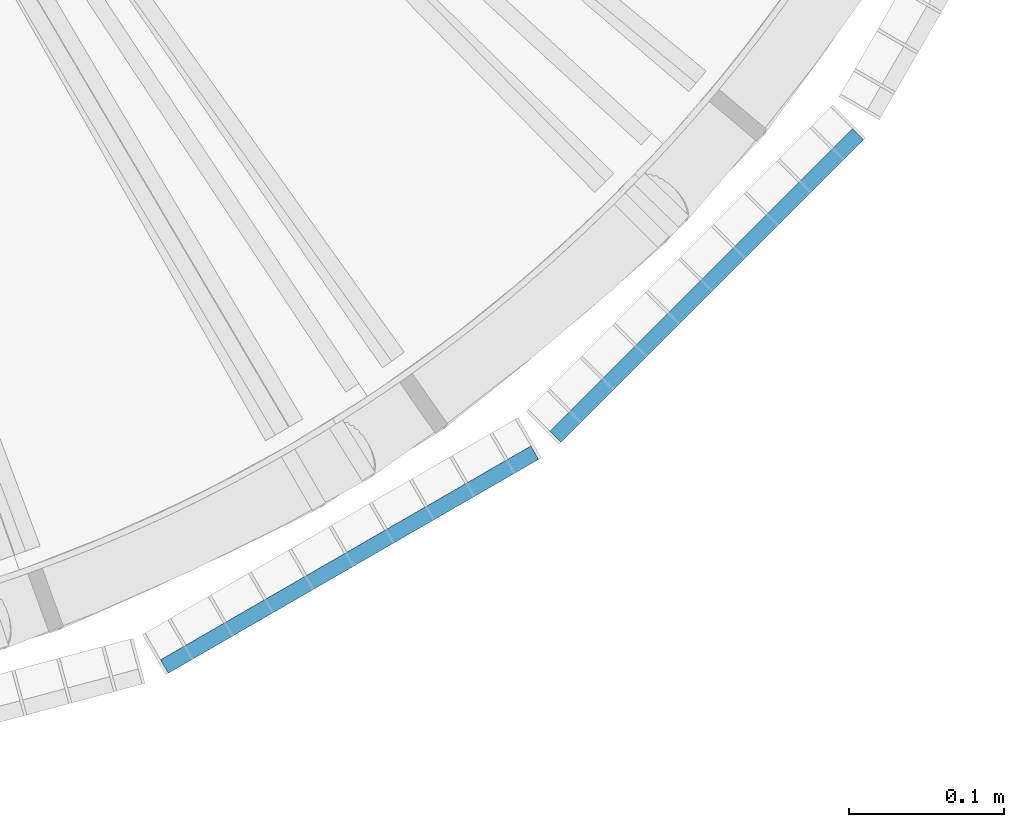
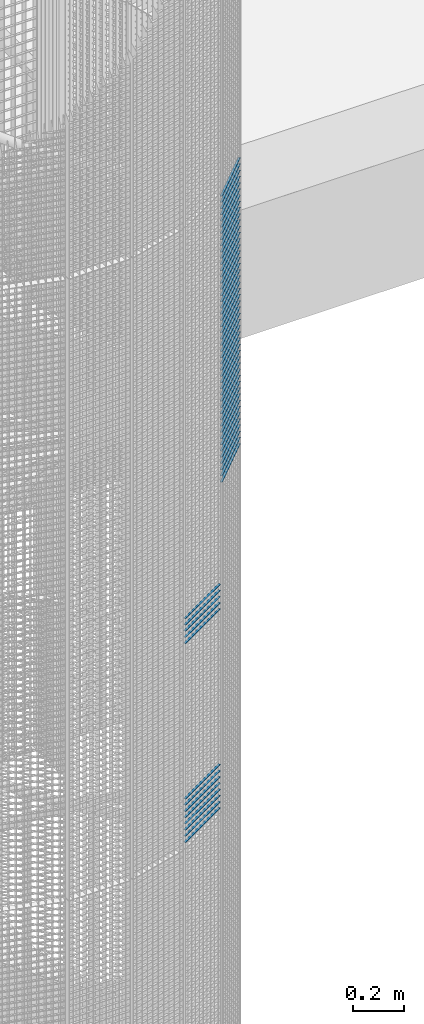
# One storey, part 399 of 1148: 60 beams, 2 elements without a shape of their own.
"""IFC2X3 building model written with IfcOpenShell, lengths in millimetres."""

from ifc_helpers import new_model, si_unit, frame, origin_with_axes, origin_2d_with_axis, place, context, subcontext, project, spatial, rectangle, extrude, material, type_object, element, aggregate, save


model = new_model("IFC2X3")

# Units and contexts
model_context = context("Model", 3, precision=1e-05, world=origin_with_axes())
body_context = subcontext(model_context, "Body", "Model", "MODEL_VIEW")
ifc_project = project(units=[si_unit("LENGTHUNIT", "METRE", prefix="MILLI"), si_unit("AREAUNIT", "SQUARE_METRE"), si_unit("VOLUMEUNIT", "CUBIC_METRE"), si_unit("MASSUNIT", "GRAM", prefix="KILO"), si_unit("TIMEUNIT", "SECOND"), si_unit("PLANEANGLEUNIT", "RADIAN"), si_unit("SOLIDANGLEUNIT", "STERADIAN"), si_unit("THERMODYNAMICTEMPERATUREUNIT", "DEGREE_CELSIUS"), si_unit("LUMINOUSINTENSITYUNIT", "LUMEN")], contexts=[model_context])

# Site, building, storey
site_placement = place(None, origin_with_axes())
site = spatial("IfcSite", under=ifc_project, at=site_placement, Name="Undefined", CompositionType="ELEMENT")
building_placement = place(site_placement, origin_with_axes())
building = spatial("IfcBuilding", under=site, at=building_placement, Name="Undefined", CompositionType="ELEMENT")
storey_placement = place(building_placement, origin_with_axes())
storey = spatial("IfcBuildingStorey", under=building, at=storey_placement, Name="Undefined", CompositionType="ELEMENT", Elevation=0.0)

# Assembly, beams
assembly_1_placement = place(storey_placement, origin_with_axes())
assembly_1 = element("IfcElementAssembly", 1, at=assembly_1_placement, inside=storey, Name="BORDURE", AssemblyPlace="NOTDEFINED", PredefinedType="NOTDEFINED")
ifc_material = material(Name="STEEL/S235JR")
beam_type = type_object("IfcBeamType", Name="PL2*10", PredefinedType="NOTDEFINED")
beam_1_placement = place(assembly_1_placement, frame((22276.2480445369, -895.303964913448, 6990.0), z_axis=(0.499999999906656, -0.866025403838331, 0.0), x_axis=(-0.866025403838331, -0.499999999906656, 0.0)))
beam_1 = element("IfcBeam", 2, at=beam_1_placement, type_object=beam_type, material=ifc_material, Name="ENTRETOISE", context=body_context, shape_type="SweptSolid", body=[
    extrude(rectangle(XDim=2.0, YDim=10.0, at=origin_2d_with_axis()), frame((275.999999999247, 9.09494701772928e-13, 1.53210777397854e-14), z_axis=(-1.0, 0.0, 0.0), x_axis=(0.0, -1.0, 0.0)), (0.0, 0.0, 1.0), 276.0),
])
beam_2_placement = place(assembly_1_placement, frame((22276.2480445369, -895.30396491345, 6240.0), z_axis=(0.499999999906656, -0.866025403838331, 0.0), x_axis=(-0.866025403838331, -0.499999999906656, 0.0)))
beam_2 = element("IfcBeam", 3, at=beam_2_placement, type_object=beam_type, material=ifc_material, Name="ENTRETOISE", context=body_context, shape_type="SweptSolid", body=[
    extrude(rectangle(XDim=2.0, YDim=10.0, at=origin_2d_with_axis()), frame((275.999999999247, 9.09494701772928e-13, 1.53210777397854e-14), z_axis=(-1.0, 0.0, 0.0), x_axis=(0.0, -1.0, 0.0)), (0.0, 0.0, 1.0), 276.0),
])
beam_3_placement = place(assembly_1_placement, frame((22276.2480445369, -895.303964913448, 7020.0), z_axis=(0.499999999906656, -0.866025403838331, 0.0), x_axis=(-0.866025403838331, -0.499999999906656, 0.0)))
beam_3 = element("IfcBeam", 4, at=beam_3_placement, type_object=beam_type, material=ifc_material, Name="ENTRETOISE", context=body_context, shape_type="SweptSolid", body=[
    extrude(rectangle(XDim=2.0, YDim=10.0, at=origin_2d_with_axis()), frame((275.999999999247, 9.09494701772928e-13, 1.53210777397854e-14), z_axis=(-1.0, 0.0, 0.0), x_axis=(0.0, -1.0, 0.0)), (0.0, 0.0, 1.0), 276.0),
])
beam_4_placement = place(assembly_1_placement, frame((22276.2480445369, -895.30396491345, 6210.0), z_axis=(0.499999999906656, -0.866025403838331, 0.0), x_axis=(-0.866025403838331, -0.499999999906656, 0.0)))
beam_4 = element("IfcBeam", 5, at=beam_4_placement, type_object=beam_type, material=ifc_material, Name="ENTRETOISE", context=body_context, shape_type="SweptSolid", body=[
    extrude(rectangle(XDim=2.0, YDim=10.0, at=origin_2d_with_axis()), frame((275.999999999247, 9.09494701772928e-13, 1.53210777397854e-14), z_axis=(-1.0, 0.0, 0.0), x_axis=(0.0, -1.0, 0.0)), (0.0, 0.0, 1.0), 276.0),
])
beam_5_placement = place(assembly_1_placement, frame((22276.2480445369, -895.30396491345, 6180.0), z_axis=(0.499999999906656, -0.866025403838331, 0.0), x_axis=(-0.866025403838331, -0.499999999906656, 0.0)))
beam_5 = element("IfcBeam", 6, at=beam_5_placement, type_object=beam_type, material=ifc_material, Name="ENTRETOISE", context=body_context, shape_type="SweptSolid", body=[
    extrude(rectangle(XDim=2.0, YDim=10.0, at=origin_2d_with_axis()), frame((275.999999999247, 9.09494701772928e-13, 1.53210777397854e-14), z_axis=(-1.0, 0.0, 0.0), x_axis=(0.0, -1.0, 0.0)), (0.0, 0.0, 1.0), 276.0),
])
beam_6_placement = place(assembly_1_placement, frame((22276.2480445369, -895.303964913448, 7050.0), z_axis=(0.499999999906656, -0.866025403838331, 0.0), x_axis=(-0.866025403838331, -0.499999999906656, 0.0)))
beam_6 = element("IfcBeam", 7, at=beam_6_placement, type_object=beam_type, material=ifc_material, Name="ENTRETOISE", context=body_context, shape_type="SweptSolid", body=[
    extrude(rectangle(XDim=2.0, YDim=10.0, at=origin_2d_with_axis()), frame((275.999999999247, 9.09494701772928e-13, 1.53210777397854e-14), z_axis=(-1.0, 0.0, 0.0), x_axis=(0.0, -1.0, 0.0)), (0.0, 0.0, 1.0), 276.0),
])
beam_7_placement = place(assembly_1_placement, frame((22276.2480445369, -895.30396491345, 6150.0), z_axis=(0.499999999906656, -0.866025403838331, 0.0), x_axis=(-0.866025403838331, -0.499999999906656, 0.0)))
beam_7 = element("IfcBeam", 8, at=beam_7_placement, type_object=beam_type, material=ifc_material, Name="ENTRETOISE", context=body_context, shape_type="SweptSolid", body=[
    extrude(rectangle(XDim=2.0, YDim=10.0, at=origin_2d_with_axis()), frame((275.999999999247, 9.09494701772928e-13, 1.53210777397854e-14), z_axis=(-1.0, 0.0, 0.0), x_axis=(0.0, -1.0, 0.0)), (0.0, 0.0, 1.0), 276.0),
])
beam_8_placement = place(assembly_1_placement, frame((22276.2480445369, -895.30396491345, 6120.0), z_axis=(0.499999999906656, -0.866025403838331, 0.0), x_axis=(-0.866025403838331, -0.499999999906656, 0.0)))
beam_8 = element("IfcBeam", 9, at=beam_8_placement, type_object=beam_type, material=ifc_material, Name="ENTRETOISE", context=body_context, shape_type="SweptSolid", body=[
    extrude(rectangle(XDim=2.0, YDim=10.0, at=origin_2d_with_axis()), frame((275.999999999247, 9.09494701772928e-13, 1.53210777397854e-14), z_axis=(-1.0, 0.0, 0.0), x_axis=(0.0, -1.0, 0.0)), (0.0, 0.0, 1.0), 276.0),
])
beam_9_placement = place(assembly_1_placement, frame((22276.2480445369, -895.303964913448, 7080.0), z_axis=(0.499999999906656, -0.866025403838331, 0.0), x_axis=(-0.866025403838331, -0.499999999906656, 0.0)))
beam_9 = element("IfcBeam", 10, at=beam_9_placement, type_object=beam_type, material=ifc_material, Name="ENTRETOISE", context=body_context, shape_type="SweptSolid", body=[
    extrude(rectangle(XDim=2.0, YDim=10.0, at=origin_2d_with_axis()), frame((275.999999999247, 9.09494701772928e-13, 1.53210777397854e-14), z_axis=(-1.0, 0.0, 0.0), x_axis=(0.0, -1.0, 0.0)), (0.0, 0.0, 1.0), 276.0),
])
beam_10_placement = place(assembly_1_placement, frame((22276.2480445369, -895.30396491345, 6090.0), z_axis=(0.499999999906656, -0.866025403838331, 0.0), x_axis=(-0.866025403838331, -0.499999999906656, 0.0)))
beam_10 = element("IfcBeam", 11, at=beam_10_placement, type_object=beam_type, material=ifc_material, Name="ENTRETOISE", context=body_context, shape_type="SweptSolid", body=[
    extrude(rectangle(XDim=2.0, YDim=10.0, at=origin_2d_with_axis()), frame((275.999999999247, 9.09494701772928e-13, 1.53210777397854e-14), z_axis=(-1.0, 0.0, 0.0), x_axis=(0.0, -1.0, 0.0)), (0.0, 0.0, 1.0), 276.0),
])
beam_11_placement = place(assembly_1_placement, frame((22276.2480445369, -895.30396491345, 6060.0), z_axis=(0.499999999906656, -0.866025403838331, 0.0), x_axis=(-0.866025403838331, -0.499999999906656, 0.0)))
beam_11 = element("IfcBeam", 12, at=beam_11_placement, type_object=beam_type, material=ifc_material, Name="ENTRETOISE", context=body_context, shape_type="SweptSolid", body=[
    extrude(rectangle(XDim=2.0, YDim=10.0, at=origin_2d_with_axis()), frame((275.999999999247, 9.09494701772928e-13, 1.53210777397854e-14), z_axis=(-1.0, 0.0, 0.0), x_axis=(0.0, -1.0, 0.0)), (0.0, 0.0, 1.0), 276.0),
])
beam_12_placement = place(assembly_1_placement, frame((22276.2480445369, -895.303964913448, 7110.0), z_axis=(0.499999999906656, -0.866025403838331, 0.0), x_axis=(-0.866025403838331, -0.499999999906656, 0.0)))
beam_12 = element("IfcBeam", 13, at=beam_12_placement, type_object=beam_type, material=ifc_material, Name="ENTRETOISE", context=body_context, shape_type="SweptSolid", body=[
    extrude(rectangle(XDim=2.0, YDim=10.0, at=origin_2d_with_axis()), frame((275.999999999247, 9.09494701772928e-13, 1.53210777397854e-14), z_axis=(-1.0, 0.0, 0.0), x_axis=(0.0, -1.0, 0.0)), (0.0, 0.0, 1.0), 276.0),
])
beam_13_placement = place(assembly_1_placement, frame((22276.2480445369, -895.30396491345, 6030.0), z_axis=(0.499999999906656, -0.866025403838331, 0.0), x_axis=(-0.866025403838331, -0.499999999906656, 0.0)))
beam_13 = element("IfcBeam", 14, at=beam_13_placement, type_object=beam_type, material=ifc_material, Name="ENTRETOISE", context=body_context, shape_type="SweptSolid", body=[
    extrude(rectangle(XDim=2.0, YDim=10.0, at=origin_2d_with_axis()), frame((275.999999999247, 9.09494701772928e-13, 1.53210777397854e-14), z_axis=(-1.0, 0.0, 0.0), x_axis=(0.0, -1.0, 0.0)), (0.0, 0.0, 1.0), 276.0),
])
aggregate(assembly_1, [beam_1, beam_2, beam_3, beam_4, beam_5, beam_6, beam_7, beam_8, beam_9, beam_10, beam_11, beam_12, beam_13])

assembly_2_placement = place(storey_placement, origin_with_axes())
assembly_2 = element("IfcElementAssembly", 15, at=assembly_2_placement, inside=storey, Name="BORDURE", AssemblyPlace="NOTDEFINED", PredefinedType="NOTDEFINED")
beam_14_placement = place(assembly_2_placement, frame((22484.9271684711, -689.771348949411, 8970.0), z_axis=(0.707106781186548, -0.707106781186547, 0.0), x_axis=(-0.70710678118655, -0.707106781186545, 0.0)))
beam_14 = element("IfcBeam", 16, at=beam_14_placement, type_object=beam_type, material=ifc_material, Name="ENTRETOISE", context=body_context, shape_type="SweptSolid", body=[
    extrude(rectangle(XDim=2.0, YDim=10.0, at=origin_2d_with_axis()), frame((275.999999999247, 9.09494701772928e-13, 1.53210777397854e-14), z_axis=(-1.0, 0.0, 0.0), x_axis=(0.0, -1.0, 0.0)), (0.0, 0.0, 1.0), 276.0),
])
beam_15_placement = place(assembly_2_placement, frame((22484.9271684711, -689.771348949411, 8940.0), z_axis=(0.707106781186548, -0.707106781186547, 0.0), x_axis=(-0.70710678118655, -0.707106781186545, 0.0)))
beam_15 = element("IfcBeam", 17, at=beam_15_placement, type_object=beam_type, material=ifc_material, Name="ENTRETOISE", context=body_context, shape_type="SweptSolid", body=[
    extrude(rectangle(XDim=2.0, YDim=10.0, at=origin_2d_with_axis()), frame((275.999999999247, 9.09494701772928e-13, 1.53210777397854e-14), z_axis=(-1.0, 0.0, 0.0), x_axis=(0.0, -1.0, 0.0)), (0.0, 0.0, 1.0), 276.0),
])
beam_16_placement = place(assembly_2_placement, frame((22484.9271684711, -689.771348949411, 8910.0), z_axis=(0.707106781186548, -0.707106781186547, 0.0), x_axis=(-0.70710678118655, -0.707106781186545, 0.0)))
beam_16 = element("IfcBeam", 18, at=beam_16_placement, type_object=beam_type, material=ifc_material, Name="ENTRETOISE", context=body_context, shape_type="SweptSolid", body=[
    extrude(rectangle(XDim=2.0, YDim=10.0, at=origin_2d_with_axis()), frame((275.999999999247, 9.09494701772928e-13, 1.53210777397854e-14), z_axis=(-1.0, 0.0, 0.0), x_axis=(0.0, -1.0, 0.0)), (0.0, 0.0, 1.0), 276.0),
])
beam_17_placement = place(assembly_2_placement, frame((22484.9271684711, -689.771348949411, 8880.0), z_axis=(0.707106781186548, -0.707106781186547, 0.0), x_axis=(-0.70710678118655, -0.707106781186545, 0.0)))
beam_17 = element("IfcBeam", 19, at=beam_17_placement, type_object=beam_type, material=ifc_material, Name="ENTRETOISE", context=body_context, shape_type="SweptSolid", body=[
    extrude(rectangle(XDim=2.0, YDim=10.0, at=origin_2d_with_axis()), frame((275.999999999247, 9.09494701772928e-13, 1.53210777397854e-14), z_axis=(-1.0, 0.0, 0.0), x_axis=(0.0, -1.0, 0.0)), (0.0, 0.0, 1.0), 276.0),
])
beam_18_placement = place(assembly_2_placement, frame((22484.9271684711, -689.771348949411, 8850.0), z_axis=(0.707106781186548, -0.707106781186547, 0.0), x_axis=(-0.70710678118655, -0.707106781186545, 0.0)))
beam_18 = element("IfcBeam", 20, at=beam_18_placement, type_object=beam_type, material=ifc_material, Name="ENTRETOISE", context=body_context, shape_type="SweptSolid", body=[
    extrude(rectangle(XDim=2.0, YDim=10.0, at=origin_2d_with_axis()), frame((275.999999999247, 9.09494701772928e-13, 1.53210777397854e-14), z_axis=(-1.0, 0.0, 0.0), x_axis=(0.0, -1.0, 0.0)), (0.0, 0.0, 1.0), 276.0),
])
beam_19_placement = place(assembly_2_placement, frame((22484.9271684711, -689.771348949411, 8820.0), z_axis=(0.707106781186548, -0.707106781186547, 0.0), x_axis=(-0.70710678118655, -0.707106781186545, 0.0)))
beam_19 = element("IfcBeam", 21, at=beam_19_placement, type_object=beam_type, material=ifc_material, Name="ENTRETOISE", context=body_context, shape_type="SweptSolid", body=[
    extrude(rectangle(XDim=2.0, YDim=10.0, at=origin_2d_with_axis()), frame((275.999999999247, 9.09494701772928e-13, 1.53210777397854e-14), z_axis=(-1.0, 0.0, 0.0), x_axis=(0.0, -1.0, 0.0)), (0.0, 0.0, 1.0), 276.0),
])
beam_20_placement = place(assembly_2_placement, frame((22484.9271684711, -689.771348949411, 8790.0), z_axis=(0.707106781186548, -0.707106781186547, 0.0), x_axis=(-0.70710678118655, -0.707106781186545, 0.0)))
beam_20 = element("IfcBeam", 22, at=beam_20_placement, type_object=beam_type, material=ifc_material, Name="ENTRETOISE", context=body_context, shape_type="SweptSolid", body=[
    extrude(rectangle(XDim=2.0, YDim=10.0, at=origin_2d_with_axis()), frame((275.999999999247, 9.09494701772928e-13, 1.53210777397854e-14), z_axis=(-1.0, 0.0, 0.0), x_axis=(0.0, -1.0, 0.0)), (0.0, 0.0, 1.0), 276.0),
])
beam_21_placement = place(assembly_2_placement, frame((22484.9271684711, -689.771348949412, 8760.0), z_axis=(0.707106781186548, -0.707106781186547, 0.0), x_axis=(-0.70710678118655, -0.707106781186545, 0.0)))
beam_21 = element("IfcBeam", 23, at=beam_21_placement, type_object=beam_type, material=ifc_material, Name="ENTRETOISE", context=body_context, shape_type="SweptSolid", body=[
    extrude(rectangle(XDim=2.0, YDim=10.0, at=origin_2d_with_axis()), frame((275.999999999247, 9.09494701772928e-13, 1.53210777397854e-14), z_axis=(-1.0, 0.0, 0.0), x_axis=(0.0, -1.0, 0.0)), (0.0, 0.0, 1.0), 276.0),
])
beam_22_placement = place(assembly_2_placement, frame((22484.9271684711, -689.771348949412, 8730.0), z_axis=(0.707106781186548, -0.707106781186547, 0.0), x_axis=(-0.70710678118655, -0.707106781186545, 0.0)))
beam_22 = element("IfcBeam", 24, at=beam_22_placement, type_object=beam_type, material=ifc_material, Name="ENTRETOISE", context=body_context, shape_type="SweptSolid", body=[
    extrude(rectangle(XDim=2.0, YDim=10.0, at=origin_2d_with_axis()), frame((275.999999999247, 9.09494701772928e-13, 1.53210777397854e-14), z_axis=(-1.0, 0.0, 0.0), x_axis=(0.0, -1.0, 0.0)), (0.0, 0.0, 1.0), 276.0),
])
beam_23_placement = place(assembly_2_placement, frame((22484.9271684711, -689.771348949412, 8700.0), z_axis=(0.707106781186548, -0.707106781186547, 0.0), x_axis=(-0.70710678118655, -0.707106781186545, 0.0)))
beam_23 = element("IfcBeam", 25, at=beam_23_placement, type_object=beam_type, material=ifc_material, Name="ENTRETOISE", context=body_context, shape_type="SweptSolid", body=[
    extrude(rectangle(XDim=2.0, YDim=10.0, at=origin_2d_with_axis()), frame((275.999999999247, 9.09494701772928e-13, 1.53210777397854e-14), z_axis=(-1.0, 0.0, 0.0), x_axis=(0.0, -1.0, 0.0)), (0.0, 0.0, 1.0), 276.0),
])
beam_24_placement = place(assembly_2_placement, frame((22484.9271684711, -689.771348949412, 8670.0), z_axis=(0.707106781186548, -0.707106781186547, 0.0), x_axis=(-0.70710678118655, -0.707106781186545, 0.0)))
beam_24 = element("IfcBeam", 26, at=beam_24_placement, type_object=beam_type, material=ifc_material, Name="ENTRETOISE", context=body_context, shape_type="SweptSolid", body=[
    extrude(rectangle(XDim=2.0, YDim=10.0, at=origin_2d_with_axis()), frame((275.999999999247, 9.09494701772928e-13, 1.53210777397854e-14), z_axis=(-1.0, 0.0, 0.0), x_axis=(0.0, -1.0, 0.0)), (0.0, 0.0, 1.0), 276.0),
])
beam_25_placement = place(assembly_2_placement, frame((22484.9271684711, -689.771348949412, 8640.0), z_axis=(0.707106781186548, -0.707106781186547, 0.0), x_axis=(-0.70710678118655, -0.707106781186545, 0.0)))
beam_25 = element("IfcBeam", 27, at=beam_25_placement, type_object=beam_type, material=ifc_material, Name="ENTRETOISE", context=body_context, shape_type="SweptSolid", body=[
    extrude(rectangle(XDim=2.0, YDim=10.0, at=origin_2d_with_axis()), frame((275.999999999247, 9.09494701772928e-13, 1.53210777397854e-14), z_axis=(-1.0, 0.0, 0.0), x_axis=(0.0, -1.0, 0.0)), (0.0, 0.0, 1.0), 276.0),
])
beam_26_placement = place(assembly_2_placement, frame((22484.9271684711, -689.771348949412, 8610.0), z_axis=(0.707106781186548, -0.707106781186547, 0.0), x_axis=(-0.70710678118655, -0.707106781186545, 0.0)))
beam_26 = element("IfcBeam", 28, at=beam_26_placement, type_object=beam_type, material=ifc_material, Name="ENTRETOISE", context=body_context, shape_type="SweptSolid", body=[
    extrude(rectangle(XDim=2.0, YDim=10.0, at=origin_2d_with_axis()), frame((275.999999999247, 9.09494701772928e-13, 1.53210777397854e-14), z_axis=(-1.0, 0.0, 0.0), x_axis=(0.0, -1.0, 0.0)), (0.0, 0.0, 1.0), 276.0),
])
beam_27_placement = place(assembly_2_placement, frame((22484.9271684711, -689.771348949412, 8580.0), z_axis=(0.707106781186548, -0.707106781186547, 0.0), x_axis=(-0.70710678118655, -0.707106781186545, 0.0)))
beam_27 = element("IfcBeam", 29, at=beam_27_placement, type_object=beam_type, material=ifc_material, Name="ENTRETOISE", context=body_context, shape_type="SweptSolid", body=[
    extrude(rectangle(XDim=2.0, YDim=10.0, at=origin_2d_with_axis()), frame((275.999999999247, 9.09494701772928e-13, 1.53210777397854e-14), z_axis=(-1.0, 0.0, 0.0), x_axis=(0.0, -1.0, 0.0)), (0.0, 0.0, 1.0), 276.0),
])
beam_28_placement = place(assembly_2_placement, frame((22484.9271684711, -689.771348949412, 8550.0), z_axis=(0.707106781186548, -0.707106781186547, 0.0), x_axis=(-0.70710678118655, -0.707106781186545, 0.0)))
beam_28 = element("IfcBeam", 30, at=beam_28_placement, type_object=beam_type, material=ifc_material, Name="ENTRETOISE", context=body_context, shape_type="SweptSolid", body=[
    extrude(rectangle(XDim=2.0, YDim=10.0, at=origin_2d_with_axis()), frame((275.999999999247, 9.09494701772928e-13, 1.53210777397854e-14), z_axis=(-1.0, 0.0, 0.0), x_axis=(0.0, -1.0, 0.0)), (0.0, 0.0, 1.0), 276.0),
])
beam_29_placement = place(assembly_2_placement, frame((22484.9271684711, -689.771348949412, 8520.0), z_axis=(0.707106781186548, -0.707106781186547, 0.0), x_axis=(-0.70710678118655, -0.707106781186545, 0.0)))
beam_29 = element("IfcBeam", 31, at=beam_29_placement, type_object=beam_type, material=ifc_material, Name="ENTRETOISE", context=body_context, shape_type="SweptSolid", body=[
    extrude(rectangle(XDim=2.0, YDim=10.0, at=origin_2d_with_axis()), frame((275.999999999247, 9.09494701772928e-13, 1.53210777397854e-14), z_axis=(-1.0, 0.0, 0.0), x_axis=(0.0, -1.0, 0.0)), (0.0, 0.0, 1.0), 276.0),
])
beam_30_placement = place(assembly_2_placement, frame((22484.9271684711, -689.771348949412, 8490.0), z_axis=(0.707106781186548, -0.707106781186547, 0.0), x_axis=(-0.70710678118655, -0.707106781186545, 0.0)))
beam_30 = element("IfcBeam", 32, at=beam_30_placement, type_object=beam_type, material=ifc_material, Name="ENTRETOISE", context=body_context, shape_type="SweptSolid", body=[
    extrude(rectangle(XDim=2.0, YDim=10.0, at=origin_2d_with_axis()), frame((275.999999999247, 9.09494701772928e-13, 1.53210777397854e-14), z_axis=(-1.0, 0.0, 0.0), x_axis=(0.0, -1.0, 0.0)), (0.0, 0.0, 1.0), 276.0),
])
beam_31_placement = place(assembly_2_placement, frame((22484.9271684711, -689.771348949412, 8460.0), z_axis=(0.707106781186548, -0.707106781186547, 0.0), x_axis=(-0.70710678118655, -0.707106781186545, 0.0)))
beam_31 = element("IfcBeam", 33, at=beam_31_placement, type_object=beam_type, material=ifc_material, Name="ENTRETOISE", context=body_context, shape_type="SweptSolid", body=[
    extrude(rectangle(XDim=2.0, YDim=10.0, at=origin_2d_with_axis()), frame((275.999999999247, 9.09494701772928e-13, 1.53210777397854e-14), z_axis=(-1.0, 0.0, 0.0), x_axis=(0.0, -1.0, 0.0)), (0.0, 0.0, 1.0), 276.0),
])
beam_32_placement = place(assembly_2_placement, frame((22484.9271684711, -689.771348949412, 8430.0), z_axis=(0.707106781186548, -0.707106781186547, 0.0), x_axis=(-0.70710678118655, -0.707106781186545, 0.0)))
beam_32 = element("IfcBeam", 34, at=beam_32_placement, type_object=beam_type, material=ifc_material, Name="ENTRETOISE", context=body_context, shape_type="SweptSolid", body=[
    extrude(rectangle(XDim=2.0, YDim=10.0, at=origin_2d_with_axis()), frame((275.999999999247, 9.09494701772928e-13, 1.53210777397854e-14), z_axis=(-1.0, 0.0, 0.0), x_axis=(0.0, -1.0, 0.0)), (0.0, 0.0, 1.0), 276.0),
])
beam_33_placement = place(assembly_2_placement, frame((22484.9271684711, -689.771348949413, 8400.0), z_axis=(0.707106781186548, -0.707106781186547, 0.0), x_axis=(-0.70710678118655, -0.707106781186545, 0.0)))
beam_33 = element("IfcBeam", 35, at=beam_33_placement, type_object=beam_type, material=ifc_material, Name="ENTRETOISE", context=body_context, shape_type="SweptSolid", body=[
    extrude(rectangle(XDim=2.0, YDim=10.0, at=origin_2d_with_axis()), frame((275.999999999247, 9.09494701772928e-13, 1.53210777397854e-14), z_axis=(-1.0, 0.0, 0.0), x_axis=(0.0, -1.0, 0.0)), (0.0, 0.0, 1.0), 276.0),
])
beam_34_placement = place(assembly_2_placement, frame((22484.9271684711, -689.771348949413, 8370.0), z_axis=(0.707106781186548, -0.707106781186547, 0.0), x_axis=(-0.70710678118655, -0.707106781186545, 0.0)))
beam_34 = element("IfcBeam", 36, at=beam_34_placement, type_object=beam_type, material=ifc_material, Name="ENTRETOISE", context=body_context, shape_type="SweptSolid", body=[
    extrude(rectangle(XDim=2.0, YDim=10.0, at=origin_2d_with_axis()), frame((275.999999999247, 9.09494701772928e-13, 1.53210777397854e-14), z_axis=(-1.0, 0.0, 0.0), x_axis=(0.0, -1.0, 0.0)), (0.0, 0.0, 1.0), 276.0),
])
beam_35_placement = place(assembly_2_placement, frame((22484.9271684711, -689.771348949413, 8340.0), z_axis=(0.707106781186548, -0.707106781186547, 0.0), x_axis=(-0.70710678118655, -0.707106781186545, 0.0)))
beam_35 = element("IfcBeam", 37, at=beam_35_placement, type_object=beam_type, material=ifc_material, Name="ENTRETOISE", context=body_context, shape_type="SweptSolid", body=[
    extrude(rectangle(XDim=2.0, YDim=10.0, at=origin_2d_with_axis()), frame((275.999999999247, 9.09494701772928e-13, 1.53210777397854e-14), z_axis=(-1.0, 0.0, 0.0), x_axis=(0.0, -1.0, 0.0)), (0.0, 0.0, 1.0), 276.0),
])
beam_36_placement = place(assembly_2_placement, frame((22484.9271684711, -689.771348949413, 8310.0), z_axis=(0.707106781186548, -0.707106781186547, 0.0), x_axis=(-0.70710678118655, -0.707106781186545, 0.0)))
beam_36 = element("IfcBeam", 38, at=beam_36_placement, type_object=beam_type, material=ifc_material, Name="ENTRETOISE", context=body_context, shape_type="SweptSolid", body=[
    extrude(rectangle(XDim=2.0, YDim=10.0, at=origin_2d_with_axis()), frame((275.999999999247, 9.09494701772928e-13, 1.53210777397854e-14), z_axis=(-1.0, 0.0, 0.0), x_axis=(0.0, -1.0, 0.0)), (0.0, 0.0, 1.0), 276.0),
])
beam_37_placement = place(assembly_2_placement, frame((22484.9271684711, -689.771348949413, 8280.0), z_axis=(0.707106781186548, -0.707106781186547, 0.0), x_axis=(-0.70710678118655, -0.707106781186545, 0.0)))
beam_37 = element("IfcBeam", 39, at=beam_37_placement, type_object=beam_type, material=ifc_material, Name="ENTRETOISE", context=body_context, shape_type="SweptSolid", body=[
    extrude(rectangle(XDim=2.0, YDim=10.0, at=origin_2d_with_axis()), frame((275.999999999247, 9.09494701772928e-13, 1.53210777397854e-14), z_axis=(-1.0, 0.0, 0.0), x_axis=(0.0, -1.0, 0.0)), (0.0, 0.0, 1.0), 276.0),
])
beam_38_placement = place(assembly_2_placement, frame((22484.9271684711, -689.771348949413, 8250.0), z_axis=(0.707106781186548, -0.707106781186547, 0.0), x_axis=(-0.70710678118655, -0.707106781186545, 0.0)))
beam_38 = element("IfcBeam", 40, at=beam_38_placement, type_object=beam_type, material=ifc_material, Name="ENTRETOISE", context=body_context, shape_type="SweptSolid", body=[
    extrude(rectangle(XDim=2.0, YDim=10.0, at=origin_2d_with_axis()), frame((275.999999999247, 9.09494701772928e-13, 1.53210777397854e-14), z_axis=(-1.0, 0.0, 0.0), x_axis=(0.0, -1.0, 0.0)), (0.0, 0.0, 1.0), 276.0),
])
beam_39_placement = place(assembly_2_placement, frame((22484.9271684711, -689.771348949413, 8220.0), z_axis=(0.707106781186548, -0.707106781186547, 0.0), x_axis=(-0.70710678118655, -0.707106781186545, 0.0)))
beam_39 = element("IfcBeam", 41, at=beam_39_placement, type_object=beam_type, material=ifc_material, Name="ENTRETOISE", context=body_context, shape_type="SweptSolid", body=[
    extrude(rectangle(XDim=2.0, YDim=10.0, at=origin_2d_with_axis()), frame((275.999999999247, 9.09494701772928e-13, 1.53210777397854e-14), z_axis=(-1.0, 0.0, 0.0), x_axis=(0.0, -1.0, 0.0)), (0.0, 0.0, 1.0), 276.0),
])
beam_40_placement = place(assembly_2_placement, frame((22484.9271684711, -689.771348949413, 8190.0), z_axis=(0.707106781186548, -0.707106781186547, 0.0), x_axis=(-0.70710678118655, -0.707106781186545, 0.0)))
beam_40 = element("IfcBeam", 42, at=beam_40_placement, type_object=beam_type, material=ifc_material, Name="ENTRETOISE", context=body_context, shape_type="SweptSolid", body=[
    extrude(rectangle(XDim=2.0, YDim=10.0, at=origin_2d_with_axis()), frame((275.999999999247, 9.09494701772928e-13, 1.53210777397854e-14), z_axis=(-1.0, 0.0, 0.0), x_axis=(0.0, -1.0, 0.0)), (0.0, 0.0, 1.0), 276.0),
])
beam_41_placement = place(assembly_2_placement, frame((22484.9271684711, -689.771348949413, 8160.0), z_axis=(0.707106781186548, -0.707106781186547, 0.0), x_axis=(-0.70710678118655, -0.707106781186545, 0.0)))
beam_41 = element("IfcBeam", 43, at=beam_41_placement, type_object=beam_type, material=ifc_material, Name="ENTRETOISE", context=body_context, shape_type="SweptSolid", body=[
    extrude(rectangle(XDim=2.0, YDim=10.0, at=origin_2d_with_axis()), frame((275.999999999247, 9.09494701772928e-13, 1.53210777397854e-14), z_axis=(-1.0, 0.0, 0.0), x_axis=(0.0, -1.0, 0.0)), (0.0, 0.0, 1.0), 276.0),
])
beam_42_placement = place(assembly_2_placement, frame((22484.9271684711, -689.771348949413, 8130.0), z_axis=(0.707106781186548, -0.707106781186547, 0.0), x_axis=(-0.70710678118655, -0.707106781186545, 0.0)))
beam_42 = element("IfcBeam", 44, at=beam_42_placement, type_object=beam_type, material=ifc_material, Name="ENTRETOISE", context=body_context, shape_type="SweptSolid", body=[
    extrude(rectangle(XDim=2.0, YDim=10.0, at=origin_2d_with_axis()), frame((275.999999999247, 9.09494701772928e-13, 1.53210777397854e-14), z_axis=(-1.0, 0.0, 0.0), x_axis=(0.0, -1.0, 0.0)), (0.0, 0.0, 1.0), 276.0),
])
beam_43_placement = place(assembly_2_placement, frame((22484.9271684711, -689.771348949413, 8100.0), z_axis=(0.707106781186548, -0.707106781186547, 0.0), x_axis=(-0.70710678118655, -0.707106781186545, 0.0)))
beam_43 = element("IfcBeam", 45, at=beam_43_placement, type_object=beam_type, material=ifc_material, Name="ENTRETOISE", context=body_context, shape_type="SweptSolid", body=[
    extrude(rectangle(XDim=2.0, YDim=10.0, at=origin_2d_with_axis()), frame((275.999999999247, 9.09494701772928e-13, 1.53210777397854e-14), z_axis=(-1.0, 0.0, 0.0), x_axis=(0.0, -1.0, 0.0)), (0.0, 0.0, 1.0), 276.0),
])
beam_44_placement = place(assembly_2_placement, frame((22484.9271684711, -689.771348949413, 8070.0), z_axis=(0.707106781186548, -0.707106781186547, 0.0), x_axis=(-0.70710678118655, -0.707106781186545, 0.0)))
beam_44 = element("IfcBeam", 46, at=beam_44_placement, type_object=beam_type, material=ifc_material, Name="ENTRETOISE", context=body_context, shape_type="SweptSolid", body=[
    extrude(rectangle(XDim=2.0, YDim=10.0, at=origin_2d_with_axis()), frame((275.999999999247, 9.09494701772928e-13, 1.53210777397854e-14), z_axis=(-1.0, 0.0, 0.0), x_axis=(0.0, -1.0, 0.0)), (0.0, 0.0, 1.0), 276.0),
])
beam_45_placement = place(assembly_2_placement, frame((22484.9271684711, -689.771348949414, 8040.0), z_axis=(0.707106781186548, -0.707106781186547, 0.0), x_axis=(-0.70710678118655, -0.707106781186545, 0.0)))
beam_45 = element("IfcBeam", 47, at=beam_45_placement, type_object=beam_type, material=ifc_material, Name="ENTRETOISE", context=body_context, shape_type="SweptSolid", body=[
    extrude(rectangle(XDim=2.0, YDim=10.0, at=origin_2d_with_axis()), frame((275.999999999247, 9.09494701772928e-13, 1.53210777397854e-14), z_axis=(-1.0, 0.0, 0.0), x_axis=(0.0, -1.0, 0.0)), (0.0, 0.0, 1.0), 276.0),
])
beam_46_placement = place(assembly_2_placement, frame((22484.9271684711, -689.771348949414, 8010.0), z_axis=(0.707106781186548, -0.707106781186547, 0.0), x_axis=(-0.70710678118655, -0.707106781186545, 0.0)))
beam_46 = element("IfcBeam", 48, at=beam_46_placement, type_object=beam_type, material=ifc_material, Name="ENTRETOISE", context=body_context, shape_type="SweptSolid", body=[
    extrude(rectangle(XDim=2.0, YDim=10.0, at=origin_2d_with_axis()), frame((275.999999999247, 9.09494701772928e-13, 1.53210777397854e-14), z_axis=(-1.0, 0.0, 0.0), x_axis=(0.0, -1.0, 0.0)), (0.0, 0.0, 1.0), 276.0),
])
beam_47_placement = place(assembly_2_placement, frame((22484.9271684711, -689.771348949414, 7980.0), z_axis=(0.707106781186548, -0.707106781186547, 0.0), x_axis=(-0.70710678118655, -0.707106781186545, 0.0)))
beam_47 = element("IfcBeam", 49, at=beam_47_placement, type_object=beam_type, material=ifc_material, Name="ENTRETOISE", context=body_context, shape_type="SweptSolid", body=[
    extrude(rectangle(XDim=2.0, YDim=10.0, at=origin_2d_with_axis()), frame((275.999999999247, 9.09494701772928e-13, 1.53210777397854e-14), z_axis=(-1.0, 0.0, 0.0), x_axis=(0.0, -1.0, 0.0)), (0.0, 0.0, 1.0), 276.0),
])
beam_48_placement = place(assembly_2_placement, frame((22484.9271684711, -689.771348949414, 7950.0), z_axis=(0.707106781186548, -0.707106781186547, 0.0), x_axis=(-0.70710678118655, -0.707106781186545, 0.0)))
beam_48 = element("IfcBeam", 50, at=beam_48_placement, type_object=beam_type, material=ifc_material, Name="ENTRETOISE", context=body_context, shape_type="SweptSolid", body=[
    extrude(rectangle(XDim=2.0, YDim=10.0, at=origin_2d_with_axis()), frame((275.999999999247, 9.09494701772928e-13, 1.53210777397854e-14), z_axis=(-1.0, 0.0, 0.0), x_axis=(0.0, -1.0, 0.0)), (0.0, 0.0, 1.0), 276.0),
])
beam_49_placement = place(assembly_2_placement, frame((22484.9271684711, -689.771348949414, 7920.0), z_axis=(0.707106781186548, -0.707106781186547, 0.0), x_axis=(-0.70710678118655, -0.707106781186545, 0.0)))
beam_49 = element("IfcBeam", 51, at=beam_49_placement, type_object=beam_type, material=ifc_material, Name="ENTRETOISE", context=body_context, shape_type="SweptSolid", body=[
    extrude(rectangle(XDim=2.0, YDim=10.0, at=origin_2d_with_axis()), frame((275.999999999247, 9.09494701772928e-13, 1.53210777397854e-14), z_axis=(-1.0, 0.0, 0.0), x_axis=(0.0, -1.0, 0.0)), (0.0, 0.0, 1.0), 276.0),
])
beam_50_placement = place(assembly_2_placement, frame((22484.9271684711, -689.771348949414, 7890.0), z_axis=(0.707106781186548, -0.707106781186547, 0.0), x_axis=(-0.70710678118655, -0.707106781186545, 0.0)))
beam_50 = element("IfcBeam", 52, at=beam_50_placement, type_object=beam_type, material=ifc_material, Name="ENTRETOISE", context=body_context, shape_type="SweptSolid", body=[
    extrude(rectangle(XDim=2.0, YDim=10.0, at=origin_2d_with_axis()), frame((275.999999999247, 9.09494701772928e-13, 1.53210777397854e-14), z_axis=(-1.0, 0.0, 0.0), x_axis=(0.0, -1.0, 0.0)), (0.0, 0.0, 1.0), 276.0),
])
beam_51_placement = place(assembly_2_placement, frame((22484.9271684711, -689.771348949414, 7860.0), z_axis=(0.707106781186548, -0.707106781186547, 0.0), x_axis=(-0.70710678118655, -0.707106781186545, 0.0)))
beam_51 = element("IfcBeam", 53, at=beam_51_placement, type_object=beam_type, material=ifc_material, Name="ENTRETOISE", context=body_context, shape_type="SweptSolid", body=[
    extrude(rectangle(XDim=2.0, YDim=10.0, at=origin_2d_with_axis()), frame((275.999999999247, 9.09494701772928e-13, 1.53210777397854e-14), z_axis=(-1.0, 0.0, 0.0), x_axis=(0.0, -1.0, 0.0)), (0.0, 0.0, 1.0), 276.0),
])
beam_52_placement = place(assembly_2_placement, frame((22484.9271684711, -689.771348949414, 7830.0), z_axis=(0.707106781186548, -0.707106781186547, 0.0), x_axis=(-0.70710678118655, -0.707106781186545, 0.0)))
beam_52 = element("IfcBeam", 54, at=beam_52_placement, type_object=beam_type, material=ifc_material, Name="ENTRETOISE", context=body_context, shape_type="SweptSolid", body=[
    extrude(rectangle(XDim=2.0, YDim=10.0, at=origin_2d_with_axis()), frame((275.999999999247, 9.09494701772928e-13, 1.53210777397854e-14), z_axis=(-1.0, 0.0, 0.0), x_axis=(0.0, -1.0, 0.0)), (0.0, 0.0, 1.0), 276.0),
])
beam_53_placement = place(assembly_2_placement, frame((22484.9271684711, -689.771348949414, 7800.0), z_axis=(0.707106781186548, -0.707106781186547, 0.0), x_axis=(-0.70710678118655, -0.707106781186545, 0.0)))
beam_53 = element("IfcBeam", 55, at=beam_53_placement, type_object=beam_type, material=ifc_material, Name="ENTRETOISE", context=body_context, shape_type="SweptSolid", body=[
    extrude(rectangle(XDim=2.0, YDim=10.0, at=origin_2d_with_axis()), frame((275.999999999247, 9.09494701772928e-13, 1.53210777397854e-14), z_axis=(-1.0, 0.0, 0.0), x_axis=(0.0, -1.0, 0.0)), (0.0, 0.0, 1.0), 276.0),
])
beam_54_placement = place(assembly_2_placement, frame((22484.9271684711, -689.771348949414, 7770.0), z_axis=(0.707106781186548, -0.707106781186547, 0.0), x_axis=(-0.70710678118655, -0.707106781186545, 0.0)))
beam_54 = element("IfcBeam", 56, at=beam_54_placement, type_object=beam_type, material=ifc_material, Name="ENTRETOISE", context=body_context, shape_type="SweptSolid", body=[
    extrude(rectangle(XDim=2.0, YDim=10.0, at=origin_2d_with_axis()), frame((275.999999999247, 9.09494701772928e-13, 1.53210777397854e-14), z_axis=(-1.0, 0.0, 0.0), x_axis=(0.0, -1.0, 0.0)), (0.0, 0.0, 1.0), 276.0),
])
beam_55_placement = place(assembly_2_placement, frame((22484.9271684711, -689.771348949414, 7740.0), z_axis=(0.707106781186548, -0.707106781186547, 0.0), x_axis=(-0.70710678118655, -0.707106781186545, 0.0)))
beam_55 = element("IfcBeam", 57, at=beam_55_placement, type_object=beam_type, material=ifc_material, Name="ENTRETOISE", context=body_context, shape_type="SweptSolid", body=[
    extrude(rectangle(XDim=2.0, YDim=10.0, at=origin_2d_with_axis()), frame((275.999999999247, 9.09494701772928e-13, 1.53210777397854e-14), z_axis=(-1.0, 0.0, 0.0), x_axis=(0.0, -1.0, 0.0)), (0.0, 0.0, 1.0), 276.0),
])
beam_56_placement = place(assembly_2_placement, frame((22484.9271684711, -689.771348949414, 7710.0), z_axis=(0.707106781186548, -0.707106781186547, 0.0), x_axis=(-0.70710678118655, -0.707106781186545, 0.0)))
beam_56 = element("IfcBeam", 58, at=beam_56_placement, type_object=beam_type, material=ifc_material, Name="ENTRETOISE", context=body_context, shape_type="SweptSolid", body=[
    extrude(rectangle(XDim=2.0, YDim=10.0, at=origin_2d_with_axis()), frame((275.999999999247, 9.09494701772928e-13, 1.53210777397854e-14), z_axis=(-1.0, 0.0, 0.0), x_axis=(0.0, -1.0, 0.0)), (0.0, 0.0, 1.0), 276.0),
])
beam_57_placement = place(assembly_2_placement, frame((22484.9271684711, -689.771348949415, 7680.0), z_axis=(0.707106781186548, -0.707106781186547, 0.0), x_axis=(-0.70710678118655, -0.707106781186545, 0.0)))
beam_57 = element("IfcBeam", 59, at=beam_57_placement, type_object=beam_type, material=ifc_material, Name="ENTRETOISE", context=body_context, shape_type="SweptSolid", body=[
    extrude(rectangle(XDim=2.0, YDim=10.0, at=origin_2d_with_axis()), frame((275.999999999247, 9.09494701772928e-13, 1.53210777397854e-14), z_axis=(-1.0, 0.0, 0.0), x_axis=(0.0, -1.0, 0.0)), (0.0, 0.0, 1.0), 276.0),
])
beam_58_placement = place(assembly_2_placement, frame((22484.9271684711, -689.771348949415, 7650.0), z_axis=(0.707106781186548, -0.707106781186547, 0.0), x_axis=(-0.70710678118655, -0.707106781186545, 0.0)))
beam_58 = element("IfcBeam", 60, at=beam_58_placement, type_object=beam_type, material=ifc_material, Name="ENTRETOISE", context=body_context, shape_type="SweptSolid", body=[
    extrude(rectangle(XDim=2.0, YDim=10.0, at=origin_2d_with_axis()), frame((275.999999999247, 9.09494701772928e-13, 1.53210777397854e-14), z_axis=(-1.0, 0.0, 0.0), x_axis=(0.0, -1.0, 0.0)), (0.0, 0.0, 1.0), 276.0),
])
beam_59_placement = place(assembly_2_placement, frame((22484.9271684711, -689.771348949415, 7620.0), z_axis=(0.707106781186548, -0.707106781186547, 0.0), x_axis=(-0.70710678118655, -0.707106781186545, 0.0)))
beam_59 = element("IfcBeam", 61, at=beam_59_placement, type_object=beam_type, material=ifc_material, Name="ENTRETOISE", context=body_context, shape_type="SweptSolid", body=[
    extrude(rectangle(XDim=2.0, YDim=10.0, at=origin_2d_with_axis()), frame((275.999999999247, 9.09494701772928e-13, 1.53210777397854e-14), z_axis=(-1.0, 0.0, 0.0), x_axis=(0.0, -1.0, 0.0)), (0.0, 0.0, 1.0), 276.0),
])
beam_60_placement = place(assembly_2_placement, frame((22484.9271684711, -689.771348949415, 7590.0), z_axis=(0.707106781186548, -0.707106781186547, 0.0), x_axis=(-0.70710678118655, -0.707106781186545, 0.0)))
beam_60 = element("IfcBeam", 62, at=beam_60_placement, type_object=beam_type, material=ifc_material, Name="ENTRETOISE", context=body_context, shape_type="SweptSolid", body=[
    extrude(rectangle(XDim=2.0, YDim=10.0, at=origin_2d_with_axis()), frame((275.999999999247, 9.09494701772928e-13, 1.53210777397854e-14), z_axis=(-1.0, 0.0, 0.0), x_axis=(0.0, -1.0, 0.0)), (0.0, 0.0, 1.0), 276.0),
])
aggregate(assembly_2, [beam_14, beam_15, beam_16, beam_17, beam_18, beam_19, beam_20, beam_21, beam_22, beam_23, beam_24, beam_25, beam_26, beam_27, beam_28, beam_29, beam_30, beam_31, beam_32, beam_33, beam_34, beam_35, beam_36, beam_37, beam_38, beam_39, beam_40, beam_41, beam_42, beam_43, beam_44, beam_45, beam_46, beam_47, beam_48, beam_49, beam_50, beam_51, beam_52, beam_53, beam_54, beam_55, beam_56, beam_57, beam_58, beam_59, beam_60])

save(model, "model.ifc")
